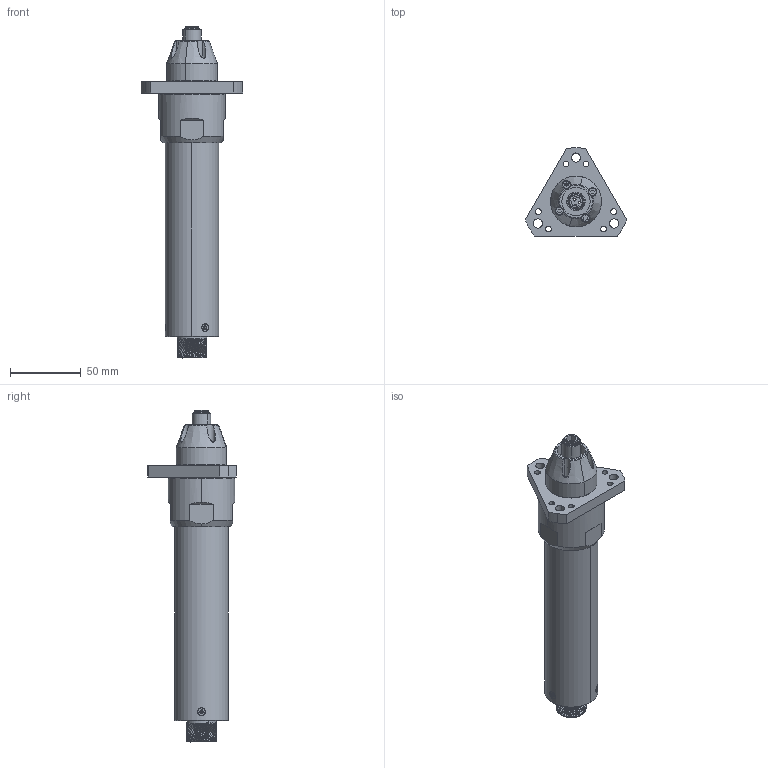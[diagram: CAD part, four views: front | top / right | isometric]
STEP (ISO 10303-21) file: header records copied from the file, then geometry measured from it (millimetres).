
FILE_DESCRIPTION (( 'STEP AP203' ), '1' );
FILE_NAME ('MDA2604,2611,2616-A.STEP', '2023-03-08T03:39:09', ( '' ), ( '' ), 'SwSTEP 2.0', 'SolidWorks 2021', '' );
FILE_SCHEMA (( 'CONFIG_CONTROL_DESIGN' ));
Length unit declared in the file: millimetre
Products named in the file (1): MDA2604,2611,2616-A
Bounding box: 71.48 x 62.43 x 234.3 mm (x, y, z)
Surface area: 40729.9 mm2 (no closed solid volume)
Topology: 0 solids, 35 shells, 322 faces, 1148 edges, 823 vertices
Faces by surface type: cylinder 130, plane 118, cone 55, bspline 19
Entity records: 19041 total; most frequent: CARTESIAN_POINT 9484, DIRECTION 1931, ORIENTED_EDGE 1783, EDGE_CURVE 1144, VERTEX_POINT 823, AXIS2_PLACEMENT_3D 731, LINE 469, VECTOR 469
